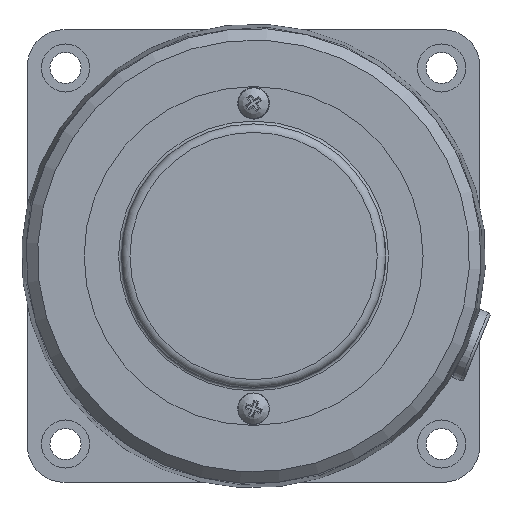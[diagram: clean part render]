
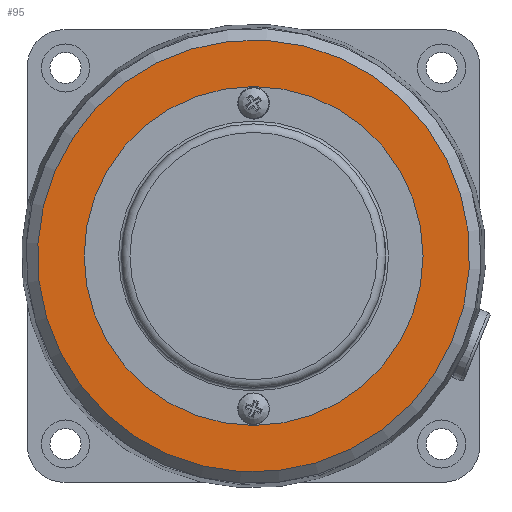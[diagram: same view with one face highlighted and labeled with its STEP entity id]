
A CAD part, left-side view. The second image highlights one B-rep face of the part: STEP entity #95.
In plain terms, the highlighted planar face has unit normal (-1, 0, 0).
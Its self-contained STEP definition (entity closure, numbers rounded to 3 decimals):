
#68=CARTESIAN_POINT('',(-38.5,0.,0.));
#69=DIRECTION('',(-1.0,0.0,0.0));
#70=DIRECTION('',(0.0,0.059,-0.998));
#71=AXIS2_PLACEMENT_3D('',#68,#69,#70);
#72=PLANE('',#71);
#73=CARTESIAN_POINT('',(-38.5,-2.256,38.113));
#74=VERTEX_POINT('',#73);
#75=CARTESIAN_POINT('',(-38.5,0.,0.));
#76=DIRECTION('',(1.0,0.,0.));
#77=DIRECTION('',(0.,0.059,-0.998));
#78=AXIS2_PLACEMENT_3D('',#75,#76,#77);
#79=CIRCLE('',#78,38.18);
#80=EDGE_CURVE('',#74,#74,#79,.T.);
#81=ORIENTED_EDGE('',*,*,#80,.F.);
#82=EDGE_LOOP('',(#81));
#83=FACE_OUTER_BOUND('',#82,.T.);
#84=CARTESIAN_POINT('',(-38.5,0.,29.95));
#85=VERTEX_POINT('',#84);
#86=CARTESIAN_POINT('',(-38.5,0.,0.));
#87=DIRECTION('',(-1.0,0.0,0.0));
#88=DIRECTION('',(0.0,0.0,-1.0));
#89=AXIS2_PLACEMENT_3D('',#86,#87,#88);
#90=CIRCLE('',#89,29.95);
#91=EDGE_CURVE('',#85,#85,#90,.T.);
#92=ORIENTED_EDGE('',*,*,#91,.F.);
#93=EDGE_LOOP('',(#92));
#94=FACE_BOUND('',#93,.T.);
#95=ADVANCED_FACE('',(#83,#94),#72,.T.);
